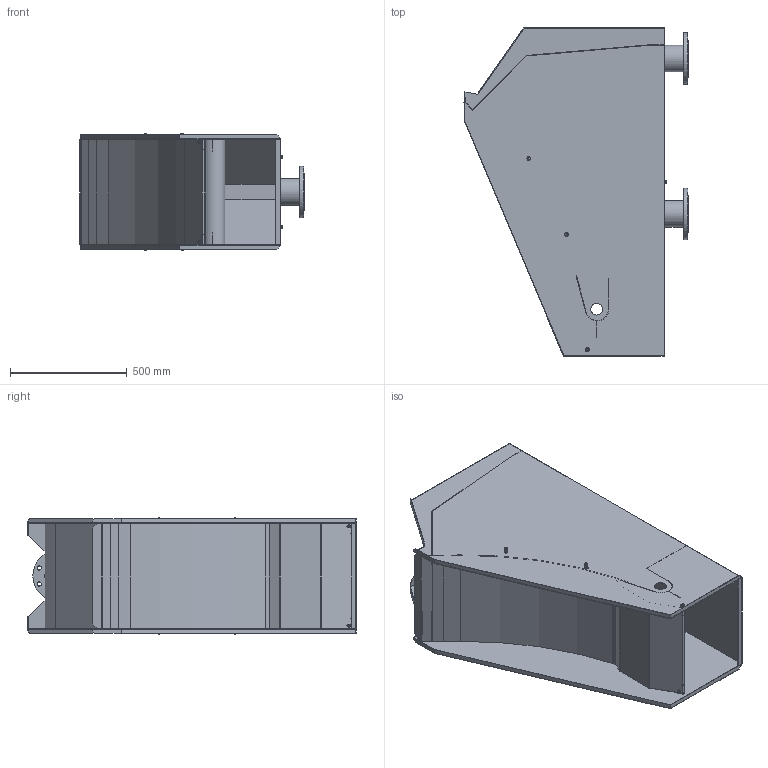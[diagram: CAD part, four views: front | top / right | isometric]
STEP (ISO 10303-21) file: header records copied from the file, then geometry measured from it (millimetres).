
FILE_DESCRIPTION(/* description */ (''),/* implementation_level */ '2;1');
FILE_NAME(/* name */ 'C:\Temp DWG\TS0500-1.stp',/* time_stamp */ '2016-04-05T15:23:09+02:00',/* author */ ('AO'),/* organization */ (''),/* preprocessor_version */ 'ST-DEVELOPER v15.6',/* originating_system */ 'Autodesk Inventor 2015',/* authorisation */ '');
FILE_SCHEMA (('AUTOMOTIVE_DESIGN { 1 0 10303 214 3 1 1 }'));
Products named in the file (1): TS0500-1
Bounding box: 960.53 x 1405 x 503.4 mm (x, y, z)
Volume: 11314571.7 mm3; surface area: 8763400 mm2
Topology: 2 solids, 10 shells, 2816 faces, 7359 edges, 4866 vertices
Faces by surface type: plane 1727, bspline 773, cylinder 186, cone 118, torus 8, sphere 4
Full cylindrical faces by diameter (mm): 4 x4, 4.2 x4, 5.459 x6, 6 x10, 6.4 x8, 6.647 x4, 7 x6, 8 x6, 8.4 x4, 8.7 x6, 9 x4, 11 x4, 12 x10, 12.5 x6, 16 x8, 18 x18, 50 x2, 110.3 x2, 112 x2, 112.3 x2, 114.3 x2, 119 x2, 158 x2, 220 x2
Entity records: 93139 total; most frequent: CARTESIAN_POINT 27623, ORIENTED_EDGE 14204, DIRECTION 9883, EDGE_CURVE 7089, VERTEX_POINT 4786, LINE 4739, VECTOR 4739, EDGE_LOOP 3404
